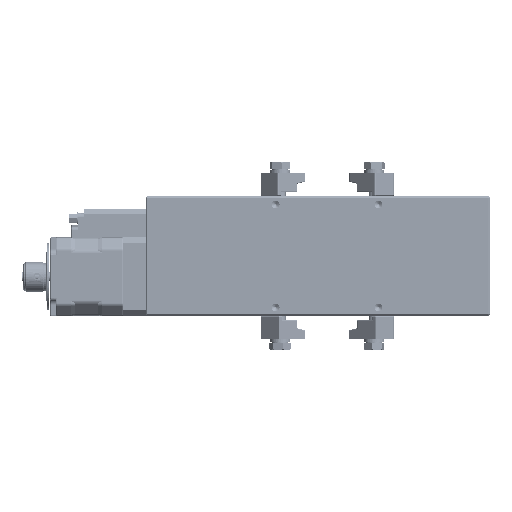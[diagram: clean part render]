
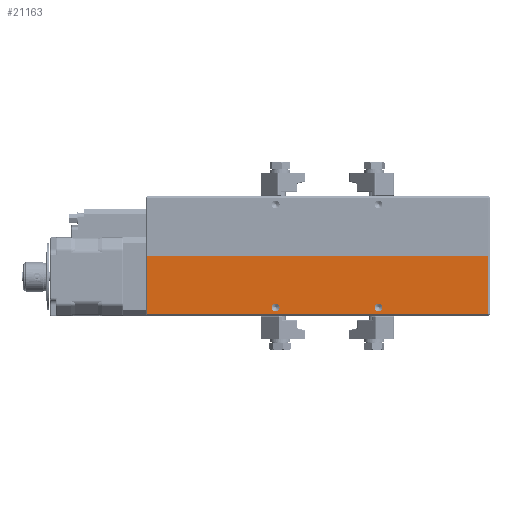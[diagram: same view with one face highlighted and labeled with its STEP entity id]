
A CAD part, front view. The second image highlights one B-rep face of the part: STEP entity #21163.
In plain terms, the highlighted planar face has unit normal (0, -1, 0).
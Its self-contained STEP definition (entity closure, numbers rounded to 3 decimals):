
#20602=CARTESIAN_POINT('',(-57.433,0.,4.6));
#20603=VERTEX_POINT('',#20602);
#20604=CARTESIAN_POINT('',(-59.5,0.,4.6));
#20605=DIRECTION('',(0.0,1.0,0.0));
#20606=DIRECTION('',(1.0,0.0,0.0));
#20607=AXIS2_PLACEMENT_3D('',#20604,#20605,#20606);
#20608=CIRCLE('',#20607,2.067);
#20609=EDGE_CURVE('',#20603,#20603,#20608,.T.);
#20639=CARTESIAN_POINT('',(-112.433,0.,4.6));
#20640=VERTEX_POINT('',#20639);
#20641=CARTESIAN_POINT('',(-114.5,0.,4.6));
#20642=DIRECTION('',(0.0,1.0,0.0));
#20643=DIRECTION('',(1.0,0.0,0.0));
#20644=AXIS2_PLACEMENT_3D('',#20641,#20642,#20643);
#20645=CIRCLE('',#20644,2.067);
#20646=EDGE_CURVE('',#20640,#20640,#20645,.T.);
#20659=CARTESIAN_POINT('',(-1.0,0.,1.0));
#20660=VERTEX_POINT('',#20659);
#20824=CARTESIAN_POINT('',(-183.0,0.,1.0));
#20825=VERTEX_POINT('',#20824);
#20826=CARTESIAN_POINT('',(-1.0,0.,1.0));
#20827=DIRECTION('',(-1.0,0.0,0.0));
#20828=VECTOR('',#20827,182.0);
#20829=LINE('',#20826,#20828);
#20830=EDGE_CURVE('',#20660,#20825,#20829,.T.);
#20848=CARTESIAN_POINT('',(-1.0,0.,32.1));
#20849=VERTEX_POINT('',#20848);
#20856=CARTESIAN_POINT('',(-1.0,0.,32.1));
#20857=DIRECTION('',(0.0,0.0,-1.0));
#20858=VECTOR('',#20857,31.1);
#20859=LINE('',#20856,#20858);
#20860=EDGE_CURVE('',#20849,#20660,#20859,.T.);
#20877=CARTESIAN_POINT('',(-183.0,0.,32.1));
#20878=VERTEX_POINT('',#20877);
#20894=CARTESIAN_POINT('',(-183.0,0.,1.0));
#20895=DIRECTION('',(0.0,0.0,1.0));
#20896=VECTOR('',#20895,31.1);
#20897=LINE('',#20894,#20896);
#20898=EDGE_CURVE('',#20825,#20878,#20897,.T.);
#21017=CARTESIAN_POINT('',(-1.0,0.,32.1));
#21018=DIRECTION('',(-1.0,0.0,0.0));
#21019=VECTOR('',#21018,182.0);
#21020=LINE('',#21017,#21019);
#21021=EDGE_CURVE('',#20849,#20878,#21020,.T.);
#21146=CARTESIAN_POINT('',(0.0,0.0,0.0));
#21147=DIRECTION('',(0.0,-1.0,0.0));
#21148=DIRECTION('',(0.0,0.0,-1.0));
#21149=AXIS2_PLACEMENT_3D('',#21146,#21147,#21148);
#21150=PLANE('',#21149);
#21151=ORIENTED_EDGE('',*,*,#20898,.F.);
#21152=ORIENTED_EDGE('',*,*,#20830,.F.);
#21153=ORIENTED_EDGE('',*,*,#20860,.F.);
#21154=ORIENTED_EDGE('',*,*,#21021,.T.);
#21155=EDGE_LOOP('',(#21151,#21152,#21153,#21154));
#21156=FACE_OUTER_BOUND('',#21155,.T.);
#21157=ORIENTED_EDGE('',*,*,#20609,.T.);
#21158=EDGE_LOOP('',(#21157));
#21159=FACE_BOUND('',#21158,.T.);
#21160=ORIENTED_EDGE('',*,*,#20646,.T.);
#21161=EDGE_LOOP('',(#21160));
#21162=FACE_BOUND('',#21161,.T.);
#21163=ADVANCED_FACE('',(#21156,#21159,#21162),#21150,.T.);
